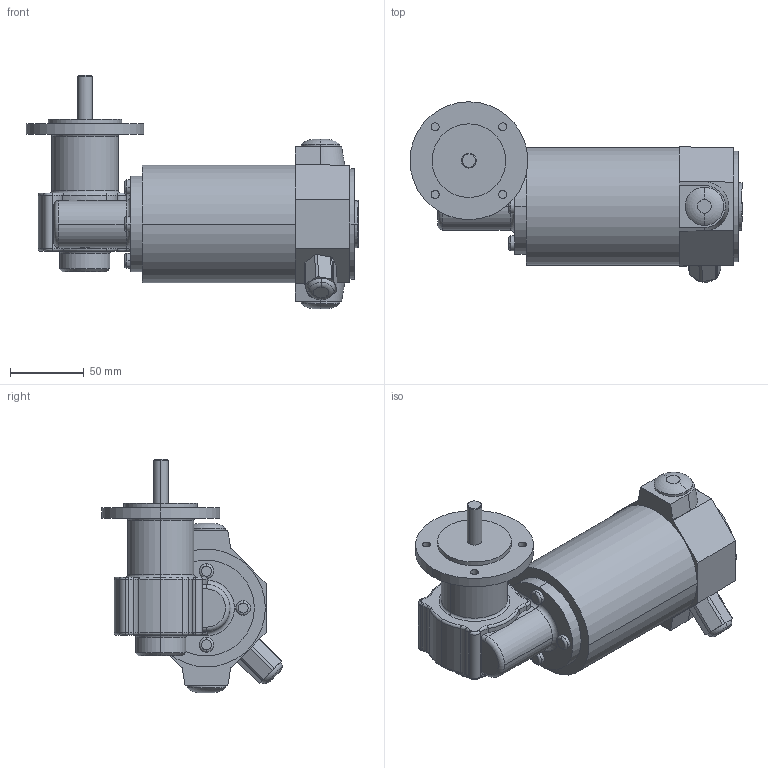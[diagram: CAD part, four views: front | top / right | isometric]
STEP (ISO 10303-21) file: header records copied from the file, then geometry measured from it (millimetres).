
FILE_DESCRIPTION(('OneSpaceDesigner STEP Export'),'2;1');
FILE_NAME('EPG12_GF128.stp','2008-07-02T15:09:39',(''),(''),'OneSpace Designer STEP processor (Jan. 2003) for AP214(CD)(Solid Model)','OneSpace Designer 12.01D 09-Jul-2004 (C) CoCreate Software GmbH','');
FILE_SCHEMA(('AUTOMOTIVE_DESIGN_CC2 {1 2 10303 214 -1 1 5 1}'));
Length unit declared in the file: millimetre
Products named in the file (2): EPG12_GF128
Assembly tree (1 placements, depth 2):
  EPG12_GF128
    EPG12_GF128
Bounding box: 225.5 x 122.39 x 158.5 mm (x, y, z)
Volume: 1076269 mm3; surface area: 85701.4 mm2
Topology: 1 solids, 1 shells, 212 faces, 511 edges, 317 vertices
Faces by surface type: cylinder 85, torus 74, plane 47, cone 4, bspline 2
Entity records: 8307 total; most frequent: CARTESIAN_POINT 3833, ORIENTED_EDGE 1022, DIRECTION 849, EDGE_CURVE 511, AXIS2_PLACEMENT_3D 350, VERTEX_POINT 317, EDGE_LOOP 236, CIRCLE 215
